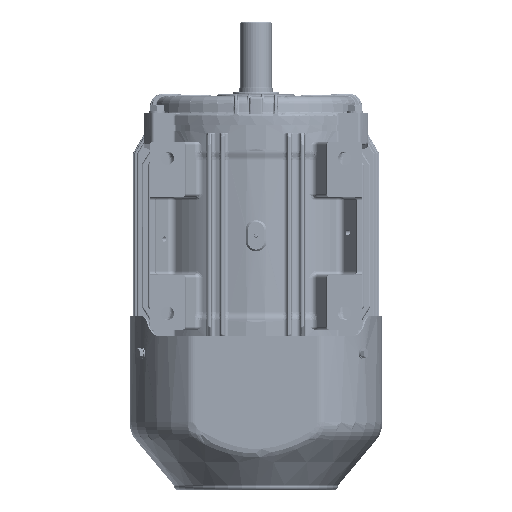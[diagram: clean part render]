
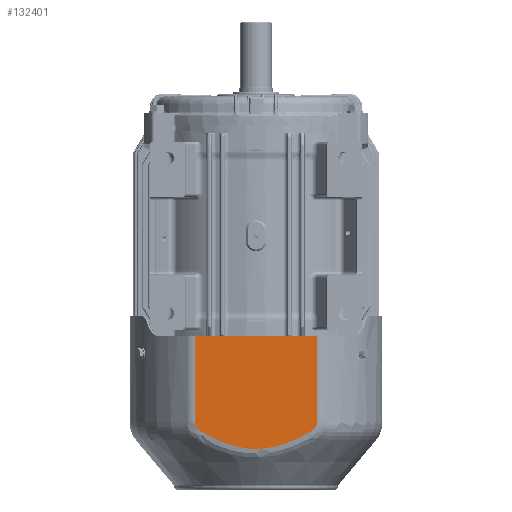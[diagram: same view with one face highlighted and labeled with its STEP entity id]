
A CAD part, front view. The second image highlights one B-rep face of the part: STEP entity #132401.
In plain terms, the highlighted planar face has unit normal (0, -1, 0).
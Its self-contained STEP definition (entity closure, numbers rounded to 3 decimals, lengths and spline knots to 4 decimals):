
#2035 = DIRECTION ( 'NONE',  ( 0., 0., 1. ) ) ;
#4238 = CARTESIAN_POINT ( 'NONE',  ( -2.1739, -3.8583, -6.6477 ) ) ;
#4394 = ORIENTED_EDGE ( 'NONE', *, *, #118167, .T. ) ;
#5761 = CARTESIAN_POINT ( 'NONE',  ( -1.9584, -3.8583, -6.95 ) ) ;
#7311 = CARTESIAN_POINT ( 'NONE',  ( -2.1406, -3.8583, -6.765 ) ) ;
#10493 = DIRECTION ( 'NONE',  ( 0., 0., -1. ) ) ;
#15579 = CARTESIAN_POINT ( 'NONE',  ( -1.9433, -3.8583, -6.9589 ) ) ;
#17388 = ORIENTED_EDGE ( 'NONE', *, *, #267532, .T. ) ;
#21864 = CARTESIAN_POINT ( 'NONE',  ( 0.1668, -3.8583, -7.5766 ) ) ;
#22418 = DIRECTION ( 'NONE',  ( 0., 1., 0. ) ) ;
#23397 = CARTESIAN_POINT ( 'NONE',  ( 0.7216, -3.8583, -7.486 ) ) ;
#27621 = CARTESIAN_POINT ( 'NONE',  ( -2.1739, -3.8583, -6.63 ) ) ;
#27666 = CARTESIAN_POINT ( 'NONE',  ( 2.1739, -3.8583, -3.563 ) ) ;
#29154 = CARTESIAN_POINT ( 'NONE',  ( -1.9732, -3.8583, -6.9405 ) ) ;
#32829 = VERTEX_POINT ( 'NONE', #253966 ) ;
#37550 = CARTESIAN_POINT ( 'NONE',  ( 2.0917, -3.8583, -6.8377 ) ) ;
#40601 = CARTESIAN_POINT ( 'NONE',  ( 2.0425, -3.8583, -6.8877 ) ) ;
#46809 = CARTESIAN_POINT ( 'NONE',  ( -0.0906, -3.8583, -7.5762 ) ) ;
#47546 = B_SPLINE_CURVE_WITH_KNOTS ( 'NONE', 3,
 ( #64101, #107885, #301567, #40601, #203157, #298508, #37550, #300044, #85991, #181267, #182817, #278125, #143585, #92117, #121654, #188926 ),
 .UNSPECIFIED., .F., .F.,
 ( 4, 2, 2, 2, 2, 2, 2, 4 ),
 ( 0., 0.0027, 0.004, 0.0053, 0.0066, 0.008, 0.0093, 0.0106 ),
 .UNSPECIFIED. ) ;
#49867 = CARTESIAN_POINT ( 'NONE',  ( 1.5643, -3.8583, -7.1673 ) ) ;
#51062 = CARTESIAN_POINT ( 'NONE',  ( -2.1608, -3.8583, -6.7163 ) ) ;
#52485 = AXIS2_PLACEMENT_3D ( 'NONE', #237981, #22418, #2035 ) ;
#52519 = CARTESIAN_POINT ( 'NONE',  ( -2.1739, -3.8583, -3.563 ) ) ;
#52719 = LINE ( 'NONE', #246387, #295730 ) ;
#54355 = CARTESIAN_POINT ( 'NONE',  ( -4.948, -3.8583, -3.563 ) ) ;
#64101 = CARTESIAN_POINT ( 'NONE',  ( 1.9433, -3.8583, -6.9589 ) ) ;
#68748 = CARTESIAN_POINT ( 'NONE',  ( -0.8565, -3.8583, -7.4533 ) ) ;
#70248 = CARTESIAN_POINT ( 'NONE',  ( -1.7949, -3.8583, -7.047 ) ) ;
#71796 = CARTESIAN_POINT ( 'NONE',  ( 1.8688, -3.8583, -7.0031 ) ) ;
#73322 = CARTESIAN_POINT ( 'NONE',  ( 1.3315, -3.8583, -7.2788 ) ) ;
#74522 = CARTESIAN_POINT ( 'NONE',  ( -2.1722, -3.8583, -6.6651 ) ) ;
#76056 = CARTESIAN_POINT ( 'NONE',  ( -2.0563, -3.8583, -6.8762 ) ) ;
#83896 = VECTOR ( 'NONE', #194967, 39.3701 ) ;
#85991 = CARTESIAN_POINT ( 'NONE',  ( 2.1229, -3.8583, -6.7956 ) ) ;
#86070 = VERTEX_POINT ( 'NONE', #15579 ) ;
#92117 = CARTESIAN_POINT ( 'NONE',  ( 2.1721, -3.8583, -6.6654 ) ) ;
#92204 = CARTESIAN_POINT ( 'NONE',  ( -1.3361, -3.8583, -7.2768 ) ) ;
#93935 = ORIENTED_EDGE ( 'NONE', *, *, #103195, .T. ) ;
#95249 = CARTESIAN_POINT ( 'NONE',  ( 0.5947, -3.8583, -7.5149 ) ) ;
#96761 = CARTESIAN_POINT ( 'NONE',  ( -0.4345, -3.8583, -7.5436 ) ) ;
#101040 = CARTESIAN_POINT ( 'NONE',  ( -1.9433, -3.8583, -6.9589 ) ) ;
#102603 = CARTESIAN_POINT ( 'NONE',  ( -2.002, -3.8583, -6.9204 ) ) ;
#103195 = EDGE_CURVE ( 'NONE', #111911, #232070, #47546, .T. ) ;
#107885 = CARTESIAN_POINT ( 'NONE',  ( 1.9735, -3.8583, -6.941 ) ) ;
#111911 = VERTEX_POINT ( 'NONE', #178512 ) ;
#114091 = CARTESIAN_POINT ( 'NONE',  ( -0.3485, -3.8583, -7.5553 ) ) ;
#115615 = CARTESIAN_POINT ( 'NONE',  ( -1.9433, -3.8583, -6.9589 ) ) ;
#117154 = CARTESIAN_POINT ( 'NONE',  ( 0.5519, -3.8583, -7.5234 ) ) ;
#118167 = EDGE_CURVE ( 'NONE', #287390, #32829, #52719, .T. ) ;
#120664 = ORIENTED_EDGE ( 'NONE', *, *, #300658, .T. ) ;
#121654 = CARTESIAN_POINT ( 'NONE',  ( 2.1739, -3.8583, -6.6477 ) ) ;
#122961 = CARTESIAN_POINT ( 'NONE',  ( -2.1231, -3.8583, -6.7953 ) ) ;
#123220 = B_SPLINE_CURVE_WITH_KNOTS ( 'NONE', 3,
 ( #115615, #70248, #168628, #92204, #187485, #68748, #284308, #164050, #96761, #114091, #140588, #235888, #46809, #21864, #287371, #117154, #95249, #165557, #23397, #260825, #237433, #142134, #73322, #49867, #213958, #190521, #71796, #263891 ),
 .UNSPECIFIED., .F., .F.,
 ( 4, 2, 2, 2, 2, 2, 2, 2, 2, 2, 2, 2, 2, 4 ),
 ( 0., 0.013, 0.026, 0.0389, 0.0422, 0.0454, 0.0519, 0.0649, 0.0681, 0.0714, 0.0779, 0.0908, 0.0973, 0.1038 ),
 .UNSPECIFIED. ) ;
#126226 = LINE ( 'NONE', #54355, #83896 ) ;
#132401 = ADVANCED_FACE ( 'NONE', ( #214496 ), #138096, .F. ) ;
#138096 = PLANE ( 'NONE',  #52485 ) ;
#140588 = CARTESIAN_POINT ( 'NONE',  ( -0.3055, -3.8583, -7.5603 ) ) ;
#142134 = CARTESIAN_POINT ( 'NONE',  ( 1.1731, -3.8583, -7.345 ) ) ;
#142924 = CARTESIAN_POINT ( 'NONE',  ( 2.1739, -3.8583, -6.63 ) ) ;
#143585 = CARTESIAN_POINT ( 'NONE',  ( 2.1655, -3.8583, -6.6998 ) ) ;
#147936 = CARTESIAN_POINT ( 'NONE',  ( -2.1657, -3.8583, -6.6993 ) ) ;
#148715 = VERTEX_POINT ( 'NONE', #27666 ) ;
#157015 = DIRECTION ( 'NONE',  ( 0., 0., 1. ) ) ;
#164050 = CARTESIAN_POINT ( 'NONE',  ( -0.4776, -3.8583, -7.5367 ) ) ;
#165557 = CARTESIAN_POINT ( 'NONE',  ( 0.6795, -3.8583, -7.4962 ) ) ;
#168146 = EDGE_CURVE ( 'NONE', #232070, #148715, #205404, .T. ) ;
#168628 = CARTESIAN_POINT ( 'NONE',  ( -1.644, -3.8583, -7.129 ) ) ;
#172946 = CARTESIAN_POINT ( 'NONE',  ( -2.1132, -3.8583, -6.81 ) ) ;
#178512 = CARTESIAN_POINT ( 'NONE',  ( 1.9433, -3.8583, -6.9589 ) ) ;
#181267 = CARTESIAN_POINT ( 'NONE',  ( 2.1404, -3.8583, -6.7653 ) ) ;
#182817 = CARTESIAN_POINT ( 'NONE',  ( 2.1482, -3.8583, -6.7493 ) ) ;
#185939 = EDGE_LOOP ( 'NONE', ( #197733, #4394, #120664, #17388, #93935, #258497 ) ) ;
#187485 = CARTESIAN_POINT ( 'NONE',  ( -1.179, -3.8583, -7.3427 ) ) ;
#188926 = CARTESIAN_POINT ( 'NONE',  ( 2.1739, -3.8583, -6.63 ) ) ;
#190521 = CARTESIAN_POINT ( 'NONE',  ( 1.7934, -3.8583, -7.046 ) ) ;
#194402 = VECTOR ( 'NONE', #157015, 39.3701 ) ;
#194795 = CARTESIAN_POINT ( 'NONE',  ( -2.1482, -3.8583, -6.7492 ) ) ;
#194967 = DIRECTION ( 'NONE',  ( 1., 0., 0. ) ) ;
#196941 = B_SPLINE_CURVE_WITH_KNOTS ( 'NONE', 3,
 ( #27621, #4238, #74522, #147936, #51062, #194795, #7311, #122961, #172946, #290103, #76056, #243209, #102603, #29154, #5761, #101040 ),
 .UNSPECIFIED., .F., .F.,
 ( 4, 2, 2, 2, 2, 2, 2, 4 ),
 ( 0., 0.0013, 0.0027, 0.004, 0.0053, 0.008, 0.0093, 0.0106 ),
 .UNSPECIFIED. ) ;
#197733 = ORIENTED_EDGE ( 'NONE', *, *, #296431, .F. ) ;
#203157 = CARTESIAN_POINT ( 'NONE',  ( 2.0554, -3.8583, -6.876 ) ) ;
#205404 = LINE ( 'NONE', #300754, #194402 ) ;
#213958 = CARTESIAN_POINT ( 'NONE',  ( 1.6411, -3.8583, -7.128 ) ) ;
#214496 = FACE_OUTER_BOUND ( 'NONE', #185939, .T. ) ;
#232070 = VERTEX_POINT ( 'NONE', #142924 ) ;
#235888 = CARTESIAN_POINT ( 'NONE',  ( -0.1765, -3.8583, -7.5721 ) ) ;
#237433 = CARTESIAN_POINT ( 'NONE',  ( 0.9292, -3.8583, -7.4282 ) ) ;
#237981 = CARTESIAN_POINT ( 'NONE',  ( -4.948, -3.8583, -9.0355 ) ) ;
#243209 = CARTESIAN_POINT ( 'NONE',  ( -2.016, -3.8583, -6.9097 ) ) ;
#246387 = CARTESIAN_POINT ( 'NONE',  ( -2.1739, -3.8583, -9.0355 ) ) ;
#253966 = CARTESIAN_POINT ( 'NONE',  ( -2.1739, -3.8583, -6.63 ) ) ;
#258497 = ORIENTED_EDGE ( 'NONE', *, *, #168146, .T. ) ;
#260825 = CARTESIAN_POINT ( 'NONE',  ( 0.8469, -3.8583, -7.4532 ) ) ;
#263891 = CARTESIAN_POINT ( 'NONE',  ( 1.9433, -3.8583, -6.9589 ) ) ;
#267532 = EDGE_CURVE ( 'NONE', #86070, #111911, #123220, .T. ) ;
#278125 = CARTESIAN_POINT ( 'NONE',  ( 2.1607, -3.8583, -6.7166 ) ) ;
#284308 = CARTESIAN_POINT ( 'NONE',  ( -0.6911, -3.8583, -7.498 ) ) ;
#287371 = CARTESIAN_POINT ( 'NONE',  ( 0.3382, -3.8583, -7.5613 ) ) ;
#287390 = VERTEX_POINT ( 'NONE', #52519 ) ;
#290103 = CARTESIAN_POINT ( 'NONE',  ( -2.0809, -3.8583, -6.8516 ) ) ;
#295730 = VECTOR ( 'NONE', #10493, 39.3701 ) ;
#296431 = EDGE_CURVE ( 'NONE', #287390, #148715, #126226, .T. ) ;
#298508 = CARTESIAN_POINT ( 'NONE',  ( 2.08, -3.8583, -6.8509 ) ) ;
#300044 = CARTESIAN_POINT ( 'NONE',  ( 2.1131, -3.8583, -6.8101 ) ) ;
#300658 = EDGE_CURVE ( 'NONE', #32829, #86070, #196941, .T. ) ;
#300754 = CARTESIAN_POINT ( 'NONE',  ( 2.1739, -3.8583, -9.0355 ) ) ;
#301567 = CARTESIAN_POINT ( 'NONE',  ( 2.0023, -3.8583, -6.9212 ) ) ;
